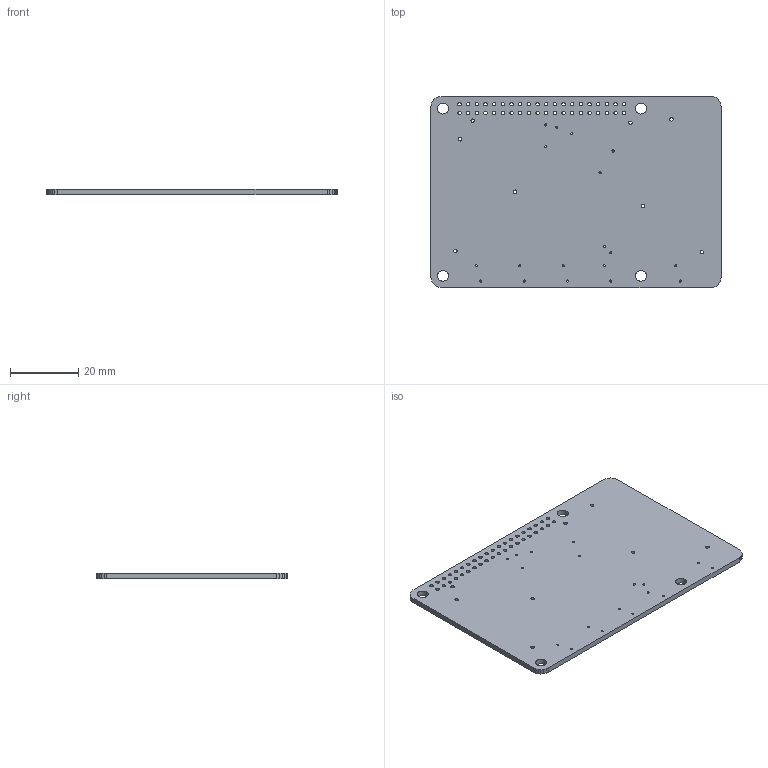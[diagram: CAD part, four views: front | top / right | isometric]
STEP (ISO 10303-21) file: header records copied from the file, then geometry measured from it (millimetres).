
FILE_DESCRIPTION (( 'STEP AP214' ), '1' );
FILE_NAME ('rpi3_2_canbus.STEP', '2016-06-30T14:45:34', ( '' ), ( '' ), 'SwSTEP 2.0', 'SolidWorks 2016', '' );
FILE_SCHEMA (( 'AUTOMOTIVE_DESIGN' ));
Length unit declared in the file: millimetre
Products named in the file (1): rpi3_2_canbus
Bounding box: 85 x 56 x 1.6 mm (x, y, z)
Volume: 7480.8 mm3; surface area: 10159.3 mm2
Topology: 1 solids, 1 shells, 170 faces, 504 edges, 336 vertices
Faces by surface type: cylinder 140, plane 30
Entity records: 8032 total; most frequent: DIRECTION 1126, CARTESIAN_POINT 1011, ORIENTED_EDGE 1008, EDGE_CURVE 504, AXIS2_PLACEMENT_3D 451, VERTEX_POINT 336, EDGE_LOOP 310, CIRCLE 280
